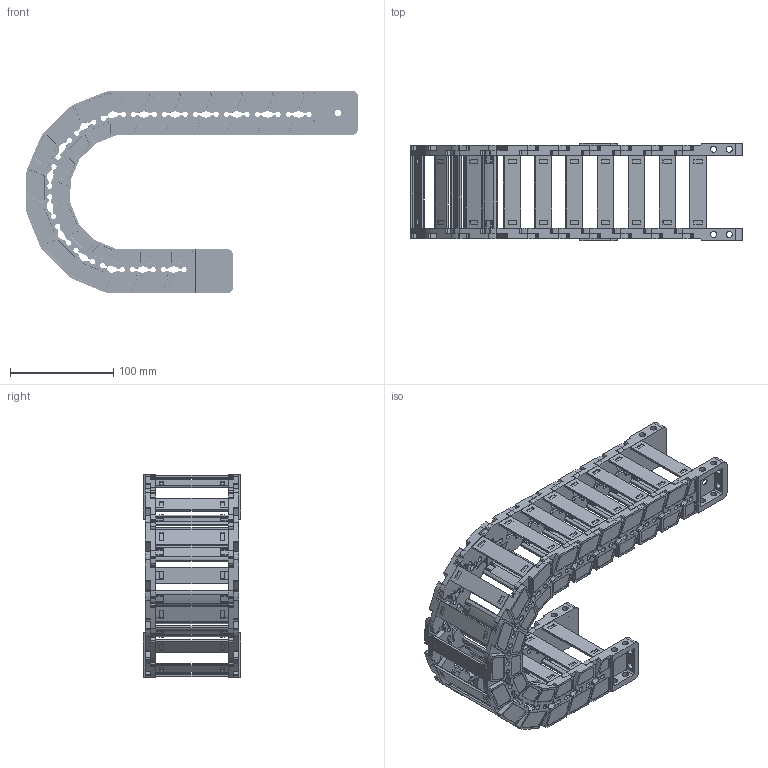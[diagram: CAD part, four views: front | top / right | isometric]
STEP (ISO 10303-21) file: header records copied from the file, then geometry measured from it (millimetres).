
FILE_DESCRIPTION((''),'2;1');
FILE_NAME('JY-35X70-R75_ASM','2025-01-05T19:05:46',('admin'),(''),'CREO PARAMETRIC BY PTC INC, 2021023','CREO PARAMETRIC BY PTC INC, 2021023','');
FILE_SCHEMA(('CONFIG_CONTROL_DESIGN'));
Length unit declared in the file: millimetre
Products named in the file (11): 35XL-L; YP; 35XL-R; ASM0001_ASM; 35-LTT-A-L; 35-LTT-A-R; 35XL-LTT-A_ASM; 35-LTT-B-L; 35-LTT-B-R; 35XL-LTT-B_ASM; JY-35X70-R75_ASM
Assembly tree (29 placements, depth 3):
  JY-35X70-R75_ASM
    ASM0001_ASM  x15
      35XL-L
      YP
      35XL-R
    35XL-LTT-A_ASM
      35-LTT-A-L
      YP  x2
      35-LTT-A-R
    35XL-LTT-B_ASM
      35-LTT-B-L
      YP  x2
      35-LTT-B-R
Bounding box: 321.72 x 94.5 x 196.34 mm (x, y, z)
Volume: 491773.7 mm3; surface area: 294451.6 mm2
Topology: 68 solids, 68 shells, 5536 faces, 16584 edges, 11192 vertices
Faces by surface type: plane 3130, cylinder 1830, cone 352, extrusion 128, bspline 96
Entity records: 27842 total; most frequent: CARTESIAN_POINT 6162, ORIENTED_EDGE 4640, DIRECTION 4353, EDGE_CURVE 2320, VERTEX_POINT 1568, AXIS2_PLACEMENT_3D 1468, VECTOR 1417, LINE 1401
